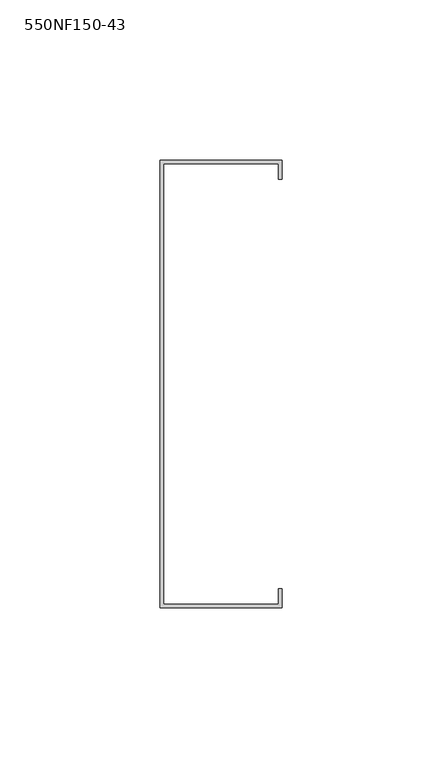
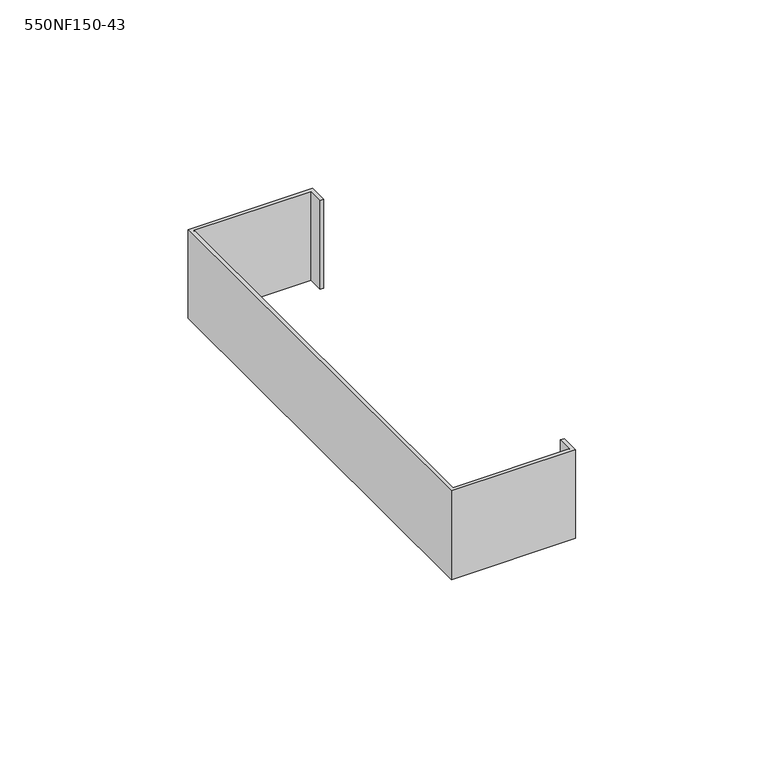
"""IFC4 building model written with IfcOpenShell, lengths in millimetres: column geometry, BIMSF-SSMA-S-Column : 550NF150-43."""

from ifc_helpers import new_model, si_unit, frame, origin, place, context, project, spatial, polyline, outline, extrude, source, transform, mapped, element, save


def column_550nf150_43_6b4b1e00(model_context):
    return source(origin(), model_context, "Body", "SweptSolid", [
        extrude(outline(polyline([(-11.9977877, -80.5871249), (-11.9977877, 59.1128751), (26.1022123, 59.1128751), (26.1022123, 53.1879908), (24.952528, 53.1879908), (24.952528, 57.9631908), (-10.8481035, 57.9631908), (-10.8481035, -79.4374407), (24.952528, -79.4374407), (24.952528, -74.6622407), (26.1022123, -74.6622407), (26.1022123, -80.5871249), (-11.9977877, -80.5871249)])), frame((0.0, 0.0, 5525.3929688), z_axis=(0.0, 0.0, 1.0), x_axis=(1.0, 0.0, 0.0)), (0.0, 0.0, 1.0), 28.7367615),
    ])


if __name__ == "__main__":
    model = new_model("IFC4")
    model_context = context("Model", 3, world=origin())
    ifc_project = project(units=[si_unit("LENGTHUNIT", "METRE", prefix="MILLI")], contexts=[model_context])
    site = spatial("IfcSite", under=ifc_project)
    building = spatial("IfcBuilding", under=site)
    placement = place(None, origin())
    column_550nf150_43_shape = column_550nf150_43_6b4b1e00(model_context)
    element("IfcColumn", 1, ObjectType="BIMSF-SSMA-S-Column : 550NF150-43", at=placement, inside=building, context=model_context, shape_type="MappedRepresentation", body=[
        mapped(column_550nf150_43_shape, transform((0.0, 0.0, 0.0), x_axis=(1.0, 0.0, 0.0), y_axis=(0.0, 1.0, 0.0), z_axis=(0.0, 0.0, 1.0))),
    ])
    save(model, "model.ifc")
